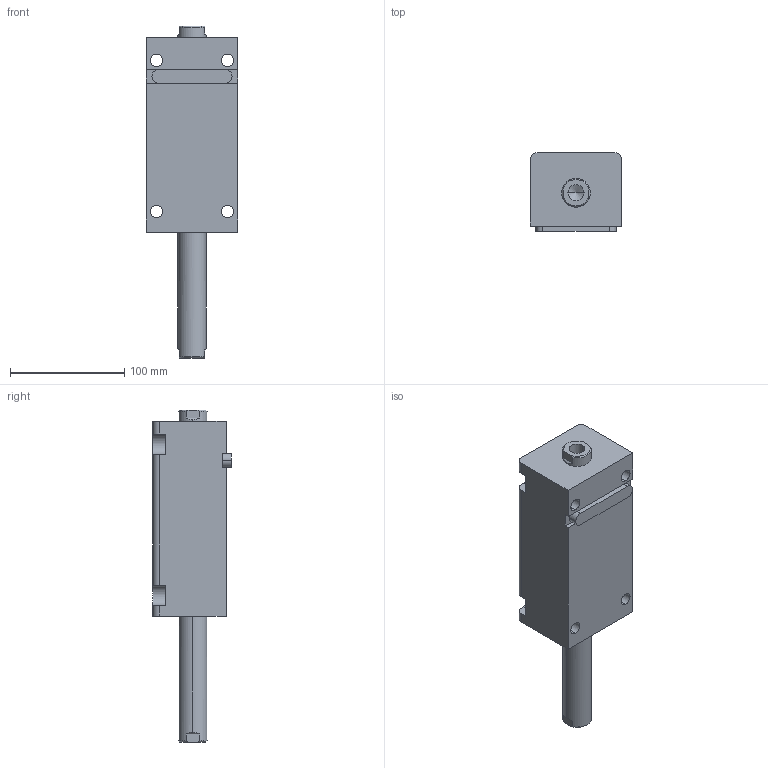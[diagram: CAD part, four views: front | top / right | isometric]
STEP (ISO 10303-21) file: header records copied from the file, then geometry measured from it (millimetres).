
FILE_DESCRIPTION (( 'STEP AP203' ), '1' );
FILE_NAME ('HTB-LW40-100N.STEP', '2019-10-09T07:59:51', ( '微软用户' ), ( '微软中国' ), 'SwSTEP 2.0', 'SolidWorks 2012', '' );
FILE_SCHEMA (( 'CONFIG_CONTROL_DESIGN' ));
Length unit declared in the file: millimetre
Products named in the file (4): HTB-LW40-100N; HTB-LA40-瑩; HTB-LW40-100N活塞杆; HTB-LW40-100掛极
Assembly tree (3 placements, depth 2):
  HTB-LW40-100N
    HTB-LW40-100掛极
    HTB-LW40-100N活塞杆
    HTB-LA40-瑩
Bounding box: 80 x 68.5 x 290 mm (x, y, z)
Volume: 811070.2 mm3; surface area: 117557.3 mm2
Topology: 3 solids, 3 shells, 105 faces, 261 edges, 168 vertices
Faces by surface type: plane 44, cylinder 41, cone 12, torus 8
Entity records: 3567 total; most frequent: CARTESIAN_POINT 588, DIRECTION 573, ORIENTED_EDGE 514, EDGE_CURVE 257, AXIS2_PLACEMENT_3D 221, VERTEX_POINT 168, LINE 131, VECTOR 131
